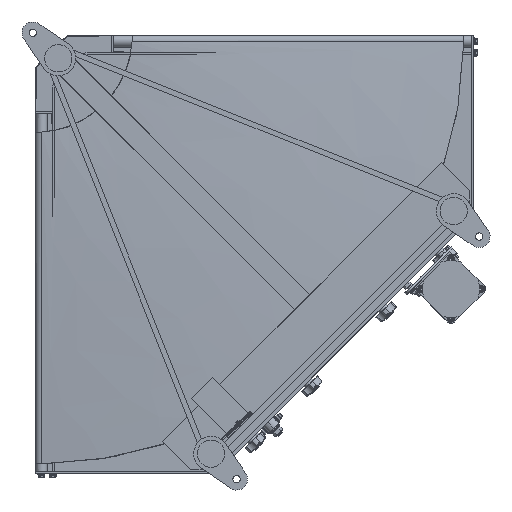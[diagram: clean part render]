
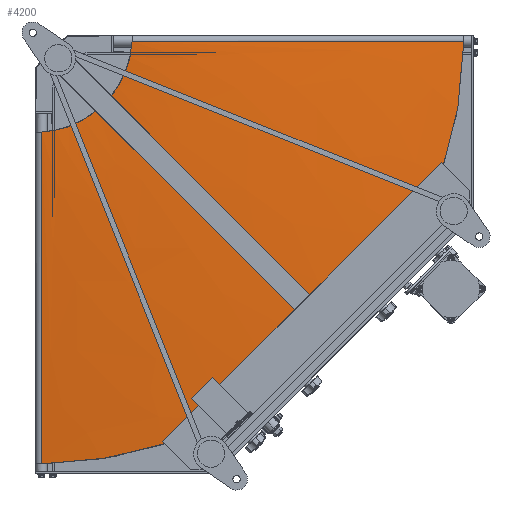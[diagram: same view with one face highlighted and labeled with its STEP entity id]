
A CAD part, front view. The second image highlights one B-rep face of the part: STEP entity #4200.
In plain terms, the highlighted free-form (B-spline) face has degree [3, 3] with [6, 4] control points.
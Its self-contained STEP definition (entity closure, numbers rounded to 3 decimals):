
#4200=ADVANCED_FACE('',(#18732),#18731,.F.);
#18731=( BOUNDED_SURFACE() B_SPLINE_SURFACE( 3,3,((#30044,#30045,#30046,#30047),(#30048,#30049,#30050,#30051),(#30052,#30053,#30054,#30055),(#30056,#30057,#30058,#30059),(#30060,#30061,#30062,#30063),(#30064,#30065,#30066,#30067)), .UNSPECIFIED.,.F.,.F.,.F.) B_SPLINE_SURFACE_WITH_KNOTS((4,2,4),(4,4),(-0.009,0.5,1.009),(-0.066,1.066), .UNSPECIFIED. ) GEOMETRIC_REPRESENTATION_ITEM() RATIONAL_B_SPLINE_SURFACE(((1.,1.,1.,1.),(1.,1.,1.,1.),(1.,1.,1.,1.),(1.,1.,1.,1.),(1.,1.,1.,1.),(1.,1.,1.,1.))) REPRESENTATION_ITEM('') SURFACE() );
#18732=FACE_OUTER_BOUND('',#30068,.T.);
#30044=CARTESIAN_POINT('',(787.165,-18.178,1.063));
#30045=CARTESIAN_POINT('',(568.459,-18.716,-2.057));
#30046=CARTESIAN_POINT('',(349.753,-19.255,-5.176));
#30047=CARTESIAN_POINT('',(131.048,-19.794,-8.296));
#30048=CARTESIAN_POINT('',(786.741,-46.965,-206.657));
#30049=CARTESIAN_POINT('',(567.5,-37.317,-151.205));
#30050=CARTESIAN_POINT('',(348.26,-27.669,-95.753));
#30051=CARTESIAN_POINT('',(129.02,-18.021,-40.301));
#30052=CARTESIAN_POINT('',(702.983,-63.137,-406.895));
#30053=CARTESIAN_POINT('',(507.139,-47.766,-294.713));
#30054=CARTESIAN_POINT('',(311.296,-32.395,-182.531));
#30055=CARTESIAN_POINT('',(115.453,-17.024,-70.349));
#30056=CARTESIAN_POINT('',(406.895,-63.137,-702.983));
#30057=CARTESIAN_POINT('',(294.713,-47.766,-507.139));
#30058=CARTESIAN_POINT('',(182.531,-32.395,-311.296));
#30059=CARTESIAN_POINT('',(70.349,-17.024,-115.453));
#30060=CARTESIAN_POINT('',(206.657,-46.965,-786.741));
#30061=CARTESIAN_POINT('',(151.205,-37.317,-567.5));
#30062=CARTESIAN_POINT('',(95.753,-27.669,-348.26));
#30063=CARTESIAN_POINT('',(40.301,-18.021,-129.02));
#30064=CARTESIAN_POINT('',(-1.063,-18.178,-787.165));
#30065=CARTESIAN_POINT('',(2.057,-18.716,-568.459));
#30066=CARTESIAN_POINT('',(5.176,-19.255,-349.753));
#30067=CARTESIAN_POINT('',(8.296,-19.794,-131.048));
#30068=EDGE_LOOP('',(#37833,#37834,#37835,#37836));
#37833=ORIENTED_EDGE('',*,*,#41690,.F.);
#37834=ORIENTED_EDGE('',*,*,#41691,.T.);
#37835=ORIENTED_EDGE('',*,*,#41692,.T.);
#37836=ORIENTED_EDGE('',*,*,#41693,.F.);
#41690=EDGE_CURVE('',#63423,#63424,#63425,.T.);
#41691=EDGE_CURVE('',#63423,#63431,#63432,.T.);
#41692=EDGE_CURVE('',#63431,#63438,#63439,.T.);
#41693=EDGE_CURVE('',#63424,#63438,#63445,.T.);
#63423=VERTEX_POINT('',#80989);
#63424=VERTEX_POINT('',#80990);
#63425=(BOUNDED_CURVE() B_SPLINE_CURVE(3,(#80991,#80992,#80993,#80994,#80995,#80996,#80997,#80998,#80999,#81000,#81001,#81002,#81003,#81004,#81005,#81006,#81007,#81008,#81009,#81010,#81011,#81012,#81013,#81014,#81015,#81016,#81017,#81018,#81019,#81020,#81021,#81022,#81023,#81024),.UNSPECIFIED.,.F.,.F.) B_SPLINE_CURVE_WITH_KNOTS((4,2,2,2,2,2,2,2,2,2,2,2,2,2,2,2,4),(0.,0.063,0.125,0.188,0.25,0.313,0.375,0.438,0.5,0.563,0.625,0.688,0.75,0.813,0.875,0.938,1.),.UNSPECIFIED.) CURVE() GEOMETRIC_REPRESENTATION_ITEM() RATIONAL_B_SPLINE_CURVE((1.,1.,1.,1.,1.,1.,1.,1.,1.,1.,1.,1.,1.,1.,1.,1.,1.,1.,1.,1.,1.,1.,1.,1.,1.,1.,1.,1.,1.,1.,1.,1.,1.,1.)) REPRESENTATION_ITEM('') );
#63431=VERTEX_POINT('',#81025);
#63432=LINE('',#81026,#81027);
#63438=VERTEX_POINT('',#81029);
#63439=(BOUNDED_CURVE() B_SPLINE_CURVE(3,(#81030,#81031,#81032,#81033,#81034,#81035,#81036,#81037,#81038,#81039,#81040),.UNSPECIFIED.,.F.,.F.) B_SPLINE_CURVE_WITH_KNOTS((4,1,1,1,1,1,1,1,4),(0.,0.134,0.224,0.334,0.5,0.666,0.776,0.866,1.),.UNSPECIFIED.) CURVE() GEOMETRIC_REPRESENTATION_ITEM() RATIONAL_B_SPLINE_CURVE((1.,1.,1.,1.,1.,1.,1.,1.,1.,1.,1.)) REPRESENTATION_ITEM('') );
#63445=LINE('',#81041,#81042);
#80989=CARTESIAN_POINT('',(748.933,-19.7,-10.));
#80990=CARTESIAN_POINT('',(10.,-19.7,-748.933));
#80991=CARTESIAN_POINT('',(748.933,-19.7,-10.));
#80992=CARTESIAN_POINT('',(748.611,-22.929,-33.954));
#80993=CARTESIAN_POINT('',(747.142,-25.998,-57.904));
#80994=CARTESIAN_POINT('',(741.907,-31.791,-105.597));
#80995=CARTESIAN_POINT('',(738.138,-34.515,-129.344));
#80996=CARTESIAN_POINT('',(728.321,-39.592,-176.417));
#80997=CARTESIAN_POINT('',(722.276,-41.945,-199.742));
#80998=CARTESIAN_POINT('',(707.953,-46.256,-245.734));
#80999=CARTESIAN_POINT('',(699.672,-48.214,-268.399));
#81000=CARTESIAN_POINT('',(680.957,-51.715,-312.851));
#81001=CARTESIAN_POINT('',(670.523,-53.259,-334.636));
#81002=CARTESIAN_POINT('',(647.591,-55.916,-377.109));
#81003=CARTESIAN_POINT('',(635.093,-57.029,-397.796));
#81004=CARTESIAN_POINT('',(608.148,-58.815,-437.882));
#81005=CARTESIAN_POINT('',(593.698,-59.488,-457.281));
#81006=CARTESIAN_POINT('',(562.983,-60.385,-494.603));
#81007=CARTESIAN_POINT('',(546.719,-60.611,-512.527));
#81008=CARTESIAN_POINT('',(512.532,-60.611,-546.714));
#81009=CARTESIAN_POINT('',(494.608,-60.385,-562.978));
#81010=CARTESIAN_POINT('',(457.286,-59.488,-593.694));
#81011=CARTESIAN_POINT('',(437.888,-58.815,-608.144));
#81012=CARTESIAN_POINT('',(397.801,-57.029,-635.089));
#81013=CARTESIAN_POINT('',(377.114,-55.916,-647.587));
#81014=CARTESIAN_POINT('',(334.643,-53.259,-670.52));
#81015=CARTESIAN_POINT('',(312.859,-51.715,-680.954));
#81016=CARTESIAN_POINT('',(268.408,-48.214,-699.669));
#81017=CARTESIAN_POINT('',(245.742,-46.257,-707.95));
#81018=CARTESIAN_POINT('',(199.745,-41.945,-722.274));
#81019=CARTESIAN_POINT('',(176.417,-39.591,-728.32));
#81020=CARTESIAN_POINT('',(129.338,-34.514,-738.138));
#81021=CARTESIAN_POINT('',(105.59,-31.79,-741.909));
#81022=CARTESIAN_POINT('',(57.9,-25.998,-747.144));
#81023=CARTESIAN_POINT('',(33.954,-22.929,-748.612));
#81024=CARTESIAN_POINT('',(10.,-19.7,-748.933));
#81025=CARTESIAN_POINT('',(168.704,-19.7,-10.));
#81026=CARTESIAN_POINT('',(748.933,-19.7,-10.));
#81027=VECTOR('',#81028,580.229);
#81028=DIRECTION('',(-1.,0.,0.));
#81029=CARTESIAN_POINT('',(10.,-19.7,-168.704));
#81030=CARTESIAN_POINT('',(168.704,-19.7,-10.));
#81031=CARTESIAN_POINT('',(168.056,-19.696,-20.952));
#81032=CARTESIAN_POINT('',(165.188,-19.691,-39.108));
#81033=CARTESIAN_POINT('',(156.616,-19.685,-65.058));
#81034=CARTESIAN_POINT('',(143.203,-19.681,-91.898));
#81035=CARTESIAN_POINT('',(120.677,-19.678,-120.677));
#81036=CARTESIAN_POINT('',(91.898,-19.681,-143.203));
#81037=CARTESIAN_POINT('',(65.058,-19.685,-156.616));
#81038=CARTESIAN_POINT('',(39.108,-19.691,-165.188));
#81039=CARTESIAN_POINT('',(20.952,-19.696,-168.056));
#81040=CARTESIAN_POINT('',(10.,-19.7,-168.704));
#81041=CARTESIAN_POINT('',(10.,-19.7,-748.933));
#81042=VECTOR('',#81043,580.229);
#81043=DIRECTION('',(0.,0.,1.));
